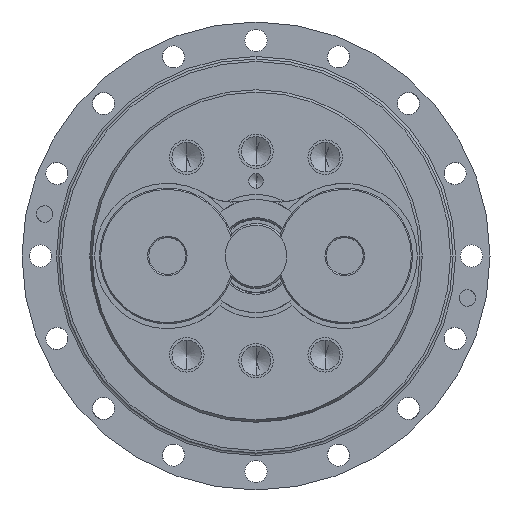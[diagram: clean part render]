
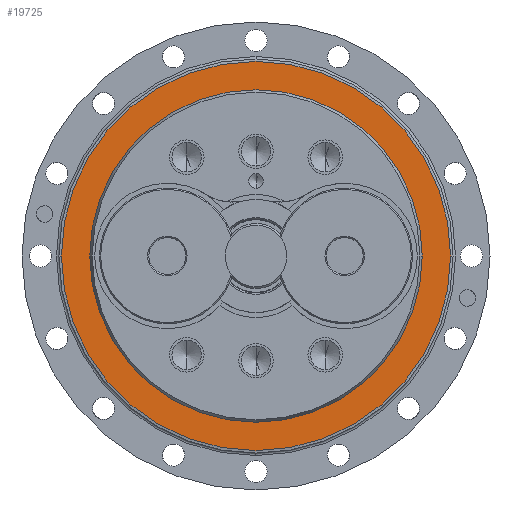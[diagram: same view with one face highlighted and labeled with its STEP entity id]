
A CAD part, left-side view. The second image highlights one B-rep face of the part: STEP entity #19725.
In plain terms, the highlighted planar face has unit normal (-1, 0, 0).
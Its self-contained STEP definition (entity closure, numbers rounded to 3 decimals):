
#37 = CARTESIAN_POINT ( 'NONE',  ( 7., 0., 0. ) ) ;
#3188 = CARTESIAN_POINT ( 'NONE',  ( 7., 0., 0. ) ) ;
#3300 = DIRECTION ( 'NONE',  ( 0., 1., 0. ) ) ;
#3331 = EDGE_LOOP ( 'NONE', ( #11368, #20402 ) ) ;
#3570 = DIRECTION ( 'NONE',  ( 0., -1., 0. ) ) ;
#3965 = ORIENTED_EDGE ( 'NONE', *, *, #21319, .T. ) ;
#4821 = AXIS2_PLACEMENT_3D ( 'NONE', #3188, #31647, #3300 ) ;
#5238 = DIRECTION ( 'NONE',  ( -1., 0., 0. ) ) ;
#5384 = EDGE_CURVE ( 'NONE', #22339, #30996, #24579, .T. ) ;
#6306 = CARTESIAN_POINT ( 'NONE',  ( 7., -67.5, 0. ) ) ;
#6358 = ORIENTED_EDGE ( 'NONE', *, *, #19620, .T. ) ;
#7417 = VERTEX_POINT ( 'NONE', #27069 ) ;
#7823 = DIRECTION ( 'NONE',  ( 0., 1., 0. ) ) ;
#8404 = CARTESIAN_POINT ( 'NONE',  ( 7., 67.5, 0. ) ) ;
#8687 = CARTESIAN_POINT ( 'NONE',  ( 7., 0., 0. ) ) ;
#9224 = EDGE_CURVE ( 'NONE', #30996, #22339, #10134, .T. ) ;
#10134 = CIRCLE ( 'NONE', #27322, 67.5 ) ;
#10807 = EDGE_LOOP ( 'NONE', ( #3965, #6358 ) ) ;
#11126 = AXIS2_PLACEMENT_3D ( 'NONE', #29798, #32886, #17192 ) ;
#11368 = ORIENTED_EDGE ( 'NONE', *, *, #9224, .T. ) ;
#12177 = FACE_BOUND ( 'NONE', #3331, .T. ) ;
#14221 = FACE_OUTER_BOUND ( 'NONE', #10807, .T. ) ;
#15214 = VERTEX_POINT ( 'NONE', #20746 ) ;
#17192 = DIRECTION ( 'NONE',  ( 0., -1., 0. ) ) ;
#19620 = EDGE_CURVE ( 'NONE', #15214, #7417, #22306, .T. ) ;
#19725 = ADVANCED_FACE ( 'NONE', ( #14221, #12177 ), #26390, .F. ) ;
#20402 = ORIENTED_EDGE ( 'NONE', *, *, #5384, .T. ) ;
#20746 = CARTESIAN_POINT ( 'NONE',  ( 7., 79., 0. ) ) ;
#21248 = AXIS2_PLACEMENT_3D ( 'NONE', #37, #5238, #7823 ) ;
#21319 = EDGE_CURVE ( 'NONE', #7417, #15214, #28372, .T. ) ;
#21470 = DIRECTION ( 'NONE',  ( 1., 0., 0. ) ) ;
#21482 = AXIS2_PLACEMENT_3D ( 'NONE', #8687, #21470, #31944 ) ;
#22306 = CIRCLE ( 'NONE', #21248, 79. ) ;
#22339 = VERTEX_POINT ( 'NONE', #8404 ) ;
#24579 = CIRCLE ( 'NONE', #21482, 67.5 ) ;
#24601 = DIRECTION ( 'NONE',  ( 1., 0., 0. ) ) ;
#26390 = PLANE ( 'NONE',  #4821 ) ;
#26894 = CARTESIAN_POINT ( 'NONE',  ( 7., 0., 0. ) ) ;
#27069 = CARTESIAN_POINT ( 'NONE',  ( 7., -79., 0. ) ) ;
#27322 = AXIS2_PLACEMENT_3D ( 'NONE', #26894, #24601, #3570 ) ;
#28372 = CIRCLE ( 'NONE', #11126, 79. ) ;
#29798 = CARTESIAN_POINT ( 'NONE',  ( 7., 0., 0. ) ) ;
#30996 = VERTEX_POINT ( 'NONE', #6306 ) ;
#31647 = DIRECTION ( 'NONE',  ( 1., 0., 0. ) ) ;
#31944 = DIRECTION ( 'NONE',  ( 0., 1., 0. ) ) ;
#32886 = DIRECTION ( 'NONE',  ( -1., 0., 0. ) ) ;
